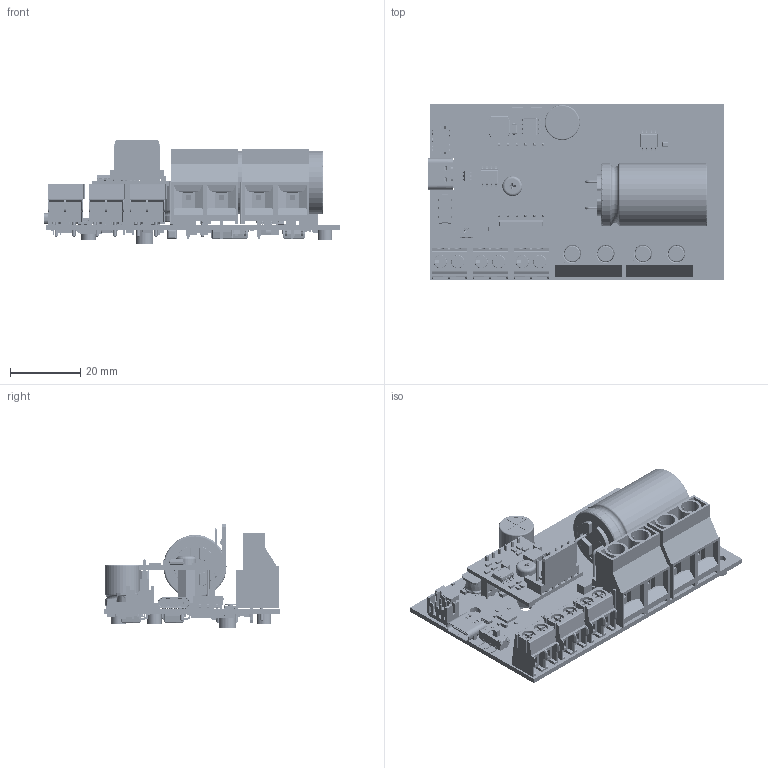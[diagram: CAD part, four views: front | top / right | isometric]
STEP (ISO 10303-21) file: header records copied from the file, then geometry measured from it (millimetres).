
FILE_DESCRIPTION(/* description */ (''),/* implementation_level */ '2;1');
FILE_NAME(/* name */ 'ADPC-48-450-U_pcb_only_(OEM).step',/* time_stamp */ '2024-02-02T11:46:38Z',/* author */ (''),/* organization */ (''),/* preprocessor_version */ 'ST-DEVELOPER v20',/* originating_system */ 'Autodesk Translation Framework v12.20.1.177',/* authorisation */ '');
FILE_SCHEMA (('AP203_CONFIGURATION_CONTROLLED_3D_DESIGN_OF_MECHANICAL_PARTS_AND_ASSEMBLIES_MIM_LF { 1 0 10303 203 3 1 4 }','AUTOMOTIVE_DESIGN { 1 0 10303 214 3 1 1 }','TECHNICAL_DATA_PACKAGING','PROCESS_PLANNING_SCHEMA'));
Length unit declared in the file: millimetre
Products named in the file (2): ADPC-48-450-U_pcb_only_(OEM); Component352
Assembly tree (1 placements, depth 2):
  ADPC-48-450-U_pcb_only_(OEM)
    Component352
Bounding box: 84.65 x 50 x 29.47 mm (x, y, z)
Volume: 24817.3 mm3; surface area: 30474 mm2
Topology: 17 solids, 41 shells, 10122 faces, 27929 edges, 18230 vertices
Faces by surface type: plane 6613, cylinder 1565, bspline 1564, sphere 162, torus 115, cone 103
Full cylindrical faces by diameter (mm): 0.046 x5, 0.077 x5, 0.102 x2, 0.193 x1, 0.254 x2, 0.4 x2, 0.457 x3, 0.5 x3, 0.635 x1, 0.65 x2, 0.8 x10, 0.85 x2, 0.9 x7, 1.038 x5, 1.1 x6, 1.194 x2, 1.5 x1, 1.6 x1, 2.2 x6, 2.6 x13, 2.7 x12, 3 x3, 3.1 x5, 3.2 x3, 3.4 x1, 3.5 x16, 4 x6, 4.2 x3, 5 x1, 5.2 x4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
Entity records: 357073 total; most frequent: CARTESIAN_POINT 104495, ORIENTED_EDGE 55770, DIRECTION 45324, EDGE_CURVE 27885, LINE 20776, VECTOR 20776, VERTEX_POINT 18298, AXIS2_PLACEMENT_3D 12274
